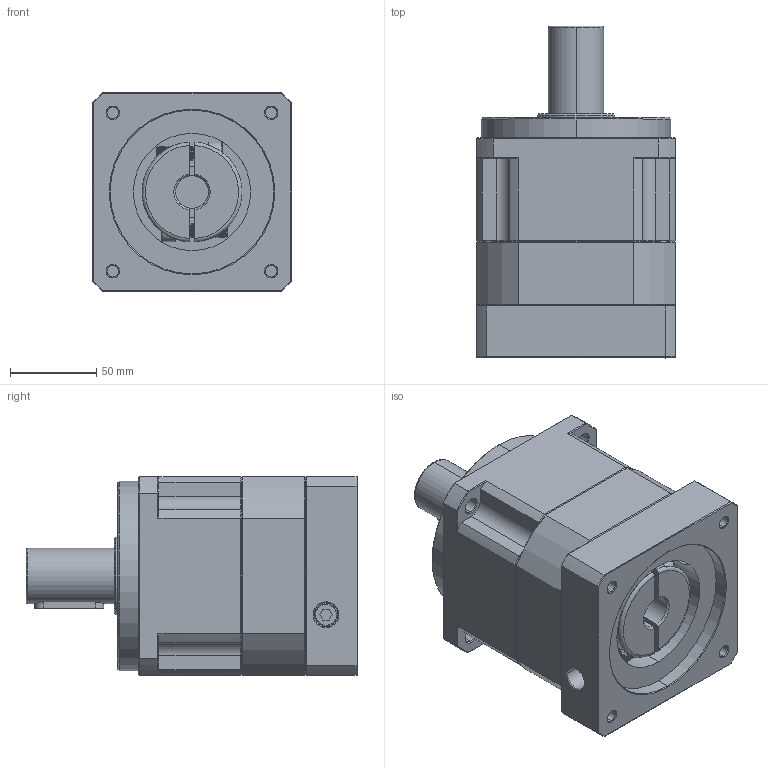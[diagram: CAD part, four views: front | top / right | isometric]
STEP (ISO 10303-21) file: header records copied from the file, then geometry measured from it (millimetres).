
FILE_DESCRIPTION (( 'STEP AP214' ), '1' );
FILE_NAME ('ZPB115-D32-L1-P1-19-95-130-M8.step', '2024-06-11T19:30:54', ( 'Windows 蚚誧' ), ( 'Organization' ), 'SwSTEP 2.0', 'SolidWorks 2016', '' );
FILE_SCHEMA (( 'AUTOMOTIVE_DESIGN' ));
Length unit declared in the file: millimetre
Products named in the file (1): ZPB115-D32-L1-P1-19-95-130-M8
Bounding box: 115 x 192.5 x 115 mm (x, y, z)
Surface area: 126216 mm2 (no closed solid volume)
Topology: 0 solids, 28 shells, 1806 faces, 4934 edges, 3186 vertices
Faces by surface type: plane 919, bspline 381, cone 266, cylinder 240
Full cylindrical faces by diameter (mm): 10.2 x4
Entity records: 97530 total; most frequent: CARTESIAN_POINT 49072, ORIENTED_EDGE 9670, DIRECTION 7383, EDGE_CURVE 4844, VECTOR 3145, LINE 3145, VERTEX_POINT 3122, AXIS2_PLACEMENT_3D 2119
